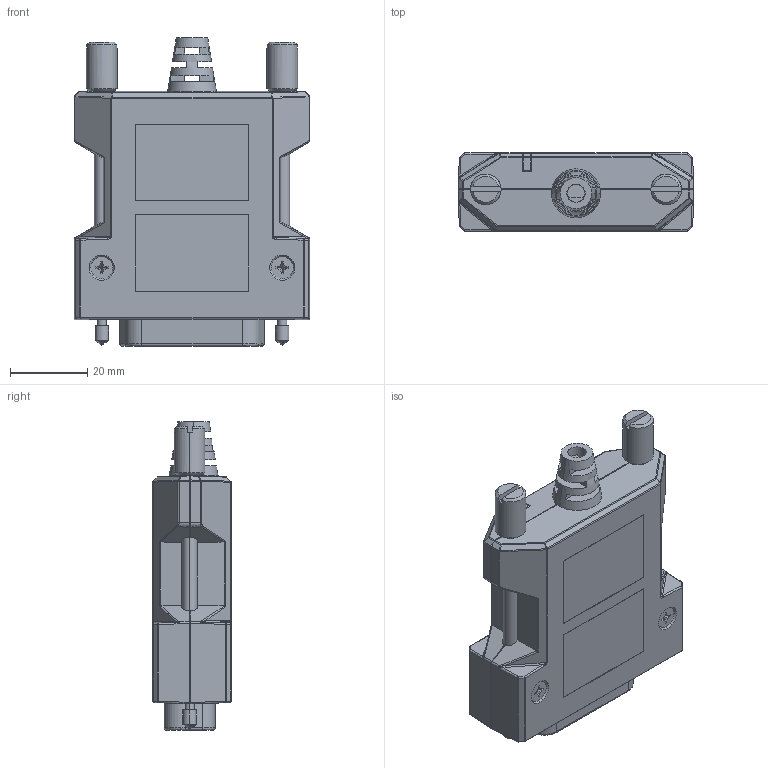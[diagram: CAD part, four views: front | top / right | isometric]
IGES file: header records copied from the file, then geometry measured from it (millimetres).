
Start section:  PTC IGES file: cu_gpib-usb-hs_plus.igs
Global section: file name: cu_gpib-usb-hs_plus.igs; native system: Creo Parametric by Parametric Technology Corporation; preprocessor: 2014000; author: talbott; organization: Unknown; date: 20140909.102830; units: inch
Bounding box: 61.2 x 20.32 x 79.95 mm (x, y, z)
Surface area: 28160.5 mm2 (no closed solid volume)
Topology: 0 solids, 0 shells, 1235 faces, 6652 edges, 6608 vertices
Faces by surface type: bspline 835, revolution 368, extrusion 32
